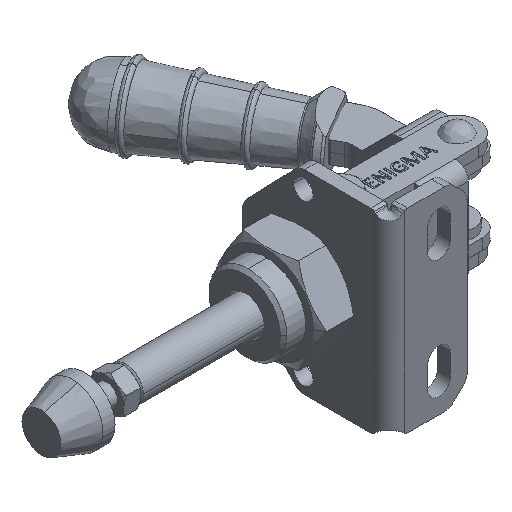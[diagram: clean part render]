
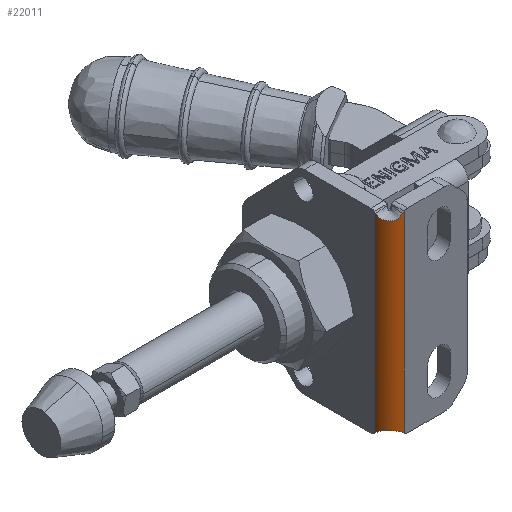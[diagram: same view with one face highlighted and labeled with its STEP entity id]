
A CAD part, isometric view. The second image highlights one B-rep face of the part: STEP entity #22011.
In plain terms, the highlighted cylindrical face has radius 3.5 mm (diameter 7 mm), a partial arc.
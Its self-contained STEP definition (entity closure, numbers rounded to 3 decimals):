
#99 = EDGE_CURVE ( 'NONE', #16395, #3197, #5873, .T. ) ;
#251 = CARTESIAN_POINT ( 'NONE',  ( 16.059, -0.166, 21.6 ) ) ;
#318 = CARTESIAN_POINT ( 'NONE',  ( 16., 0.5, -22.194 ) ) ;
#382 = CARTESIAN_POINT ( 'NONE',  ( 16.213, -0.719, 21.273 ) ) ;
#447 = VERTEX_POINT ( 'NONE', #22801 ) ;
#1694 = ORIENTED_EDGE ( 'NONE', *, *, #14503, .F. ) ;
#1763 = CARTESIAN_POINT ( 'NONE',  ( 18.466, -2.849, 21.372 ) ) ;
#1898 = CARTESIAN_POINT ( 'NONE',  ( 16.87, -1.82, 21.004 ) ) ;
#2111 = CARTESIAN_POINT ( 'NONE',  ( 16.336, -1.001, -21.15 ) ) ;
#2250 = CARTESIAN_POINT ( 'NONE',  ( 17.182, -2.132, -21.004 ) ) ;
#2730 = B_SPLINE_CURVE_WITH_KNOTS ( 'NONE', 3,
 ( #3290, #3641, #5202, #20643 ),
 .UNSPECIFIED., .F., .F.,
 ( 4, 4 ),
 ( 0., 1. ),
 .UNSPECIFIED. ) ;
#2762 = CARTESIAN_POINT ( 'NONE',  ( 17.712, -2.517, -21.082 ) ) ;
#2765 = CARTESIAN_POINT ( 'NONE',  ( 16., 0.385, 22.096 ) ) ;
#3111 = EDGE_CURVE ( 'NONE', #15515, #11567, #11095, .T. ) ;
#3197 = VERTEX_POINT ( 'NONE', #15947 ) ;
#3290 = CARTESIAN_POINT ( 'NONE',  ( 19.5, -3., -22.193 ) ) ;
#3641 = CARTESIAN_POINT ( 'NONE',  ( 19.386, -3., -22.095 ) ) ;
#3658 = EDGE_CURVE ( 'NONE', #447, #3845, #8950, .T. ) ;
#3845 = VERTEX_POINT ( 'NONE', #16433 ) ;
#3905 = CARTESIAN_POINT ( 'NONE',  ( 17.716, -2.513, 21.073 ) ) ;
#4155 = CARTESIAN_POINT ( 'NONE',  ( 18.002, -2.665, 21.15 ) ) ;
#4453 = ORIENTED_EDGE ( 'NONE', *, *, #21515, .F. ) ;
#4509 = CARTESIAN_POINT ( 'NONE',  ( 19.007, -2.968, -21.739 ) ) ;
#4912 = CARTESIAN_POINT ( 'NONE',  ( 19.272, -2.994, 21.998 ) ) ;
#5202 = CARTESIAN_POINT ( 'NONE',  ( 19.272, -2.994, -21.998 ) ) ;
#5447 = B_SPLINE_CURVE_WITH_KNOTS ( 'NONE', 3,
 ( #17961, #4912, #12638, #6937 ),
 .UNSPECIFIED., .F., .F.,
 ( 4, 4 ),
 ( 0., 1. ),
 .UNSPECIFIED. ) ;
#5668 = CARTESIAN_POINT ( 'NONE',  ( 16., 0.5, -22.194 ) ) ;
#5805 = CARTESIAN_POINT ( 'NONE',  ( 16.485, -1.29, 21.082 ) ) ;
#5873 = LINE ( 'NONE', #19290, #18737 ) ;
#6425 = CARTESIAN_POINT ( 'NONE',  ( 18.284, -2.788, -21.273 ) ) ;
#6694 = AXIS2_PLACEMENT_3D ( 'NONE', #7550, #10981, #11338 ) ;
#6937 = CARTESIAN_POINT ( 'NONE',  ( 19.5, -3., 22.193 ) ) ;
#7157 = DIRECTION ( 'NONE',  ( 0., 0., 1. ) ) ;
#7205 = CARTESIAN_POINT ( 'NONE',  ( 19.159, -2.983, 21.9 ) ) ;
#7550 = CARTESIAN_POINT ( 'NONE',  ( 19.5, 0.5, 44.601 ) ) ;
#8091 = CARTESIAN_POINT ( 'NONE',  ( 16.017, 0.156, 21.9 ) ) ;
#8950 = B_SPLINE_CURVE_WITH_KNOTS ( 'NONE', 3,
 ( #9714, #23384, #21482, #17429, #23255, #2111, #21364, #13647, #11734, #9843, #19582, #2250, #19969, #2762, #12127, #6425, #14146, #21860, #4509, #18192 ),
 .UNSPECIFIED., .F., .F.,
 ( 4, 2, 2, 2, 2, 2, 2, 2, 2, 4 ),
 ( 0., 0.001, 0.001, 0.002, 0.002, 0.003, 0.003, 0.004, 0.005, 0.005 ),
 .UNSPECIFIED. ) ;
#9294 = LINE ( 'NONE', #20813, #9501 ) ;
#9350 = CARTESIAN_POINT ( 'NONE',  ( 16., 0.385, -22.096 ) ) ;
#9496 = CARTESIAN_POINT ( 'NONE',  ( 18.286, -2.789, 21.258 ) ) ;
#9501 = VECTOR ( 'NONE', #7157, 1000. ) ;
#9714 = CARTESIAN_POINT ( 'NONE',  ( 16.017, 0.156, -21.9 ) ) ;
#9733 = CARTESIAN_POINT ( 'NONE',  ( 17.183, -2.132, 21.002 ) ) ;
#9843 = CARTESIAN_POINT ( 'NONE',  ( 16.728, -1.648, -21.012 ) ) ;
#10981 = DIRECTION ( 'NONE',  ( 0., 0., -1. ) ) ;
#11095 = B_SPLINE_CURVE_WITH_KNOTS ( 'NONE', 3,
 ( #19230, #23137, #24930, #1763, #9496, #4155, #15558, #3905, #17587, #15420, #9733, #1898, #21505, #5805, #21259, #382, #15813, #251, #23526, #8091 ),
 .UNSPECIFIED., .F., .F.,
 ( 4, 2, 2, 2, 2, 2, 2, 2, 2, 4 ),
 ( 0., 0.001, 0.001, 0.002, 0.002, 0.003, 0.003, 0.004, 0.005, 0.005 ),
 .UNSPECIFIED. ) ;
#11338 = DIRECTION ( 'NONE',  ( -1., 0., 0. ) ) ;
#11490 = ORIENTED_EDGE ( 'NONE', *, *, #99, .T. ) ;
#11567 = VERTEX_POINT ( 'NONE', #19409 ) ;
#11734 = CARTESIAN_POINT ( 'NONE',  ( 16.545, -1.378, -21.054 ) ) ;
#12127 = CARTESIAN_POINT ( 'NONE',  ( 17.904, -2.622, -21.131 ) ) ;
#12380 = CARTESIAN_POINT ( 'NONE',  ( 16., 0.5, 22.194 ) ) ;
#12507 = CARTESIAN_POINT ( 'NONE',  ( 16.006, 0.27, 21.998 ) ) ;
#12638 = CARTESIAN_POINT ( 'NONE',  ( 19.386, -3., 22.095 ) ) ;
#12947 = B_SPLINE_CURVE_WITH_KNOTS ( 'NONE', 3,
 ( #18962, #15180, #9350, #5668 ),
 .UNSPECIFIED., .F., .F.,
 ( 4, 4 ),
 ( 0., 1. ),
 .UNSPECIFIED. ) ;
#13647 = CARTESIAN_POINT ( 'NONE',  ( 16.488, -1.286, -21.073 ) ) ;
#13846 = ORIENTED_EDGE ( 'NONE', *, *, #19509, .F. ) ;
#14146 = CARTESIAN_POINT ( 'NONE',  ( 18.472, -2.851, -21.364 ) ) ;
#14503 = EDGE_CURVE ( 'NONE', #17009, #11567, #20225, .T. ) ;
#14999 = DIRECTION ( 'NONE',  ( 0., 0., 1. ) ) ;
#15180 = CARTESIAN_POINT ( 'NONE',  ( 16.006, 0.27, -21.998 ) ) ;
#15420 = CARTESIAN_POINT ( 'NONE',  ( 17.355, -2.274, 21.012 ) ) ;
#15515 = VERTEX_POINT ( 'NONE', #7205 ) ;
#15558 = CARTESIAN_POINT ( 'NONE',  ( 17.905, -2.617, 21.12 ) ) ;
#15813 = CARTESIAN_POINT ( 'NONE',  ( 16.15, -0.531, 21.364 ) ) ;
#15947 = CARTESIAN_POINT ( 'NONE',  ( 19.5, -3., 22.193 ) ) ;
#16395 = VERTEX_POINT ( 'NONE', #20296 ) ;
#16433 = CARTESIAN_POINT ( 'NONE',  ( 19.159, -2.983, -21.9 ) ) ;
#17009 = VERTEX_POINT ( 'NONE', #21787 ) ;
#17429 = CARTESIAN_POINT ( 'NONE',  ( 16.152, -0.536, -21.372 ) ) ;
#17587 = CARTESIAN_POINT ( 'NONE',  ( 17.624, -2.457, 21.054 ) ) ;
#17961 = CARTESIAN_POINT ( 'NONE',  ( 19.159, -2.983, 21.9 ) ) ;
#18192 = CARTESIAN_POINT ( 'NONE',  ( 19.159, -2.983, -21.9 ) ) ;
#18601 = EDGE_CURVE ( 'NONE', #15515, #3197, #5447, .T. ) ;
#18737 = VECTOR ( 'NONE', #14999, 1000. ) ;
#18962 = CARTESIAN_POINT ( 'NONE',  ( 16.017, 0.156, -21.9 ) ) ;
#19230 = CARTESIAN_POINT ( 'NONE',  ( 19.159, -2.983, 21.9 ) ) ;
#19290 = CARTESIAN_POINT ( 'NONE',  ( 19.5, -3., 44.601 ) ) ;
#19409 = CARTESIAN_POINT ( 'NONE',  ( 16.017, 0.156, 21.9 ) ) ;
#19509 = EDGE_CURVE ( 'NONE', #16395, #3845, #2730, .T. ) ;
#19582 = CARTESIAN_POINT ( 'NONE',  ( 16.869, -1.819, -21.002 ) ) ;
#19969 = CARTESIAN_POINT ( 'NONE',  ( 17.354, -2.273, -21.019 ) ) ;
#20225 = B_SPLINE_CURVE_WITH_KNOTS ( 'NONE', 3,
 ( #12380, #2765, #12507, #20228 ),
 .UNSPECIFIED., .F., .F.,
 ( 4, 4 ),
 ( 0., 1. ),
 .UNSPECIFIED. ) ;
#20228 = CARTESIAN_POINT ( 'NONE',  ( 16.017, 0.156, 21.9 ) ) ;
#20296 = CARTESIAN_POINT ( 'NONE',  ( 19.5, -3., -22.193 ) ) ;
#20323 = ORIENTED_EDGE ( 'NONE', *, *, #18601, .F. ) ;
#20608 = CYLINDRICAL_SURFACE ( 'NONE', #6694, 3.5 ) ;
#20643 = CARTESIAN_POINT ( 'NONE',  ( 19.159, -2.983, -21.9 ) ) ;
#20813 = CARTESIAN_POINT ( 'NONE',  ( 16., 0.5, 0. ) ) ;
#21259 = CARTESIAN_POINT ( 'NONE',  ( 16.379, -1.099, 21.131 ) ) ;
#21364 = CARTESIAN_POINT ( 'NONE',  ( 16.384, -1.097, -21.12 ) ) ;
#21482 = CARTESIAN_POINT ( 'NONE',  ( 16.062, -0.182, -21.621 ) ) ;
#21505 = CARTESIAN_POINT ( 'NONE',  ( 16.729, -1.648, 21.019 ) ) ;
#21515 = EDGE_CURVE ( 'NONE', #447, #22636, #12947, .T. ) ;
#21787 = CARTESIAN_POINT ( 'NONE',  ( 16., 0.5, 22.194 ) ) ;
#21860 = CARTESIAN_POINT ( 'NONE',  ( 18.837, -2.942, -21.6 ) ) ;
#22011 = ADVANCED_FACE ( 'NONE', ( #22616 ), #20608, .T. ) ;
#22216 = ORIENTED_EDGE ( 'NONE', *, *, #3111, .T. ) ;
#22385 = ORIENTED_EDGE ( 'NONE', *, *, #3658, .T. ) ;
#22557 = ORIENTED_EDGE ( 'NONE', *, *, #24452, .F. ) ;
#22616 = FACE_OUTER_BOUND ( 'NONE', #23401, .T. ) ;
#22636 = VERTEX_POINT ( 'NONE', #318 ) ;
#22801 = CARTESIAN_POINT ( 'NONE',  ( 16.017, 0.156, -21.9 ) ) ;
#23137 = CARTESIAN_POINT ( 'NONE',  ( 18.991, -2.967, 21.757 ) ) ;
#23255 = CARTESIAN_POINT ( 'NONE',  ( 16.212, -0.716, -21.258 ) ) ;
#23384 = CARTESIAN_POINT ( 'NONE',  ( 16.034, -0.012, -21.757 ) ) ;
#23401 = EDGE_LOOP ( 'NONE', ( #11490, #20323, #22216, #1694, #22557, #4453, #22385, #13846 ) ) ;
#23526 = CARTESIAN_POINT ( 'NONE',  ( 16.032, 0.004, 21.739 ) ) ;
#24452 = EDGE_CURVE ( 'NONE', #22636, #17009, #9294, .T. ) ;
#24930 = CARTESIAN_POINT ( 'NONE',  ( 18.82, -2.938, 21.621 ) ) ;
